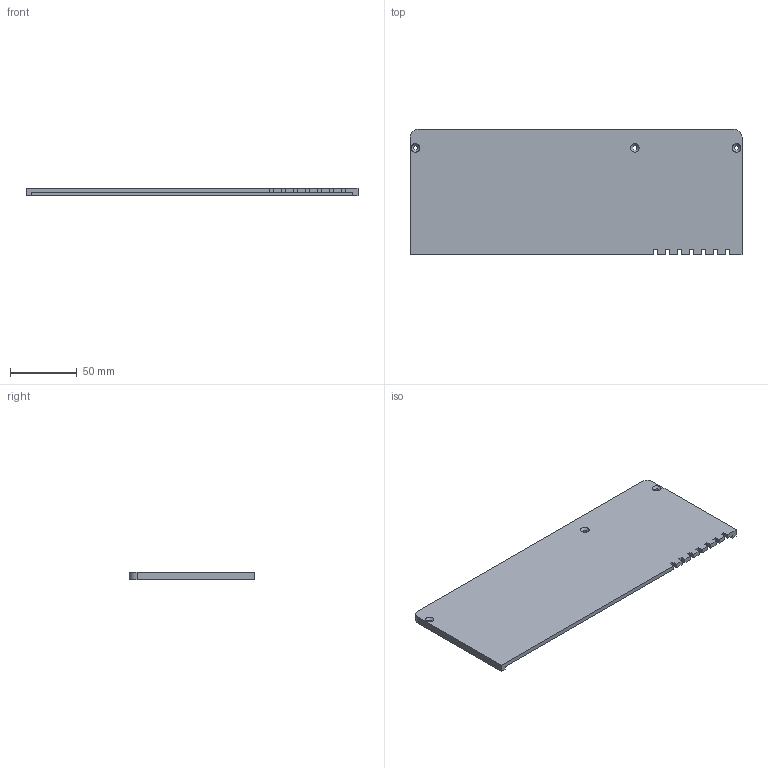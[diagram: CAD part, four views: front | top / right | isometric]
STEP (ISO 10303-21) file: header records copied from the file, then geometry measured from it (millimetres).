
FILE_DESCRIPTION(('Open CASCADE Model'),'2;1');
FILE_NAME('Open CASCADE Shape Model','2026-11-07T14:08:16',('Author'),( 'Open CASCADE'),'Open CASCADE STEP processor 7.9','Open CASCADE 7.9' ,'Unknown');
FILE_SCHEMA(('AUTOMOTIVE_DESIGN { 1 0 10303 214 1 1 1 1 }'));
Length unit declared in the file: millimetre
Products named in the file (1): Open CASCADE STEP translator 7.9 26
Bounding box: 248 x 93.8 x 5.7 mm (x, y, z)
Volume: 78214.9 mm3; surface area: 50859.8 mm2
Topology: 1 solids, 1 shells, 48 faces, 141 edges, 93 vertices
Faces by surface type: plane 40, cylinder 5, cone 3
Full cylindrical faces by diameter (mm): 3.3 x3
Entity records: 3286 total; most frequent: CARTESIAN_POINT 793, DIRECTION 355, ORIENTED_EDGE 282, PCURVE 282, DEFINITIONAL_REPRESENTATION 282, LINE 218, VECTOR 218, B_SPLINE_CURVE_WITH_KNOTS 174
